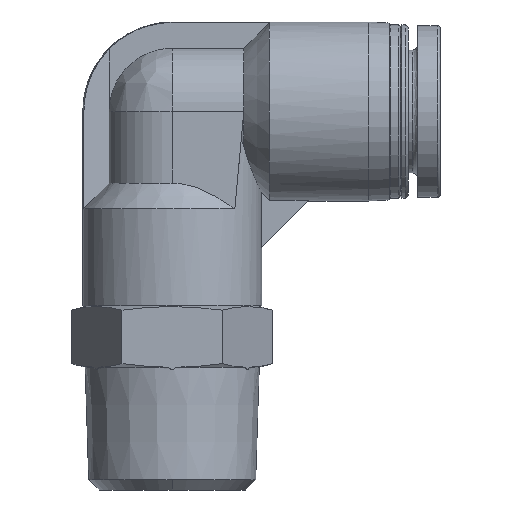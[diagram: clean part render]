
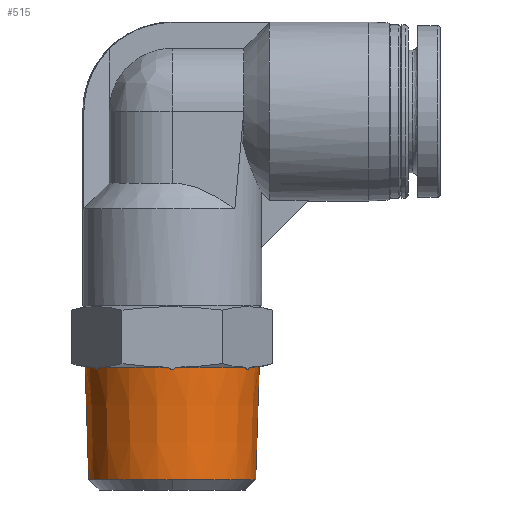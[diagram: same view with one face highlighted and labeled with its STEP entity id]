
A CAD part, front view. The second image highlights one B-rep face of the part: STEP entity #515.
In plain terms, the highlighted conical face has half-angle 1.79 degrees and reference radius 8.508 mm.
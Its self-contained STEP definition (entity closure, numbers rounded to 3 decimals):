
#16 = EDGE_CURVE ( 'NONE', #1618, #109, #2916, .T. ) ;
#32 = ORIENTED_EDGE ( 'NONE', *, *, #183, .T. ) ;
#60 = EDGE_CURVE ( 'NONE', #2812, #1618, #1098, .T. ) ;
#65 = CIRCLE ( 'NONE', #2620, 8.508 ) ;
#109 = VERTEX_POINT ( 'NONE', #2345 ) ;
#134 = EDGE_CURVE ( 'NONE', #407, #2812, #1837, .T. ) ;
#142 = EDGE_CURVE ( 'NONE', #1291, #441, #1373, .T. ) ;
#151 = EDGE_CURVE ( 'NONE', #2352, #441, #65, .T. ) ;
#175 = EDGE_CURVE ( 'NONE', #2352, #2492, #2382, .T. ) ;
#180 = EDGE_CURVE ( 'NONE', #1429, #2492, #1352, .T. ) ;
#183 = EDGE_CURVE ( 'NONE', #1429, #1846, #1490, .T. ) ;
#206 = EDGE_CURVE ( 'NONE', #560, #1846, #2214, .T. ) ;
#232 = EDGE_CURVE ( 'NONE', #1291, #109, #1662, .T. ) ;
#274 = CARTESIAN_POINT ( 'NONE',  ( 0.265, -8.5, 11.884 ) ) ;
#376 = DIRECTION ( 'NONE',  ( 1., 0., 0. ) ) ;
#407 = VERTEX_POINT ( 'NONE', #2166 ) ;
#410 = DIRECTION ( 'NONE',  ( 0., 0., 1. ) ) ;
#420 = CARTESIAN_POINT ( 'NONE',  ( 0., 0., 12. ) ) ;
#441 = VERTEX_POINT ( 'NONE', #1464 ) ;
#452 = CARTESIAN_POINT ( 'NONE',  ( -8.508, 0., 12. ) ) ;
#484 = DIRECTION ( 'NONE',  ( -0.031, 0., 1. ) ) ;
#515 = ADVANCED_FACE ( '71', ( #2912 ), #1386, .T. ) ;
#560 = VERTEX_POINT ( 'NONE', #2491 ) ;
#645 = ORIENTED_EDGE ( 'NONE', *, *, #16, .T. ) ;
#678 = ORIENTED_EDGE ( 'NONE', *, *, #206, .F. ) ;
#719 = ORIENTED_EDGE ( 'NONE', *, *, #134, .T. ) ;
#852 = ORIENTED_EDGE ( 'NONE', *, *, #60, .T. ) ;
#924 = ORIENTED_EDGE ( 'NONE', *, *, #982, .F. ) ;
#982 = EDGE_CURVE ( 'NONE', #407, #560, #2004, .T. ) ;
#1012 = DIRECTION ( 'NONE',  ( 0.884, -0.468, 0. ) ) ;
#1015 = DIRECTION ( 'NONE',  ( 0., 0., 1. ) ) ;
#1020 = CARTESIAN_POINT ( 'NONE',  ( 0., 0., 12. ) ) ;
#1098 = CIRCLE ( 'NONE', #1556, 8.164 ) ;
#1144 = EDGE_LOOP ( 'NONE', ( #924, #719, #852, #645, #1807, #1223, #1178, #2566, #2810, #32, #678 ) ) ;
#1178 = ORIENTED_EDGE ( 'NONE', *, *, #151, .F. ) ;
#1223 = ORIENTED_EDGE ( 'NONE', *, *, #142, .T. ) ;
#1238 = CARTESIAN_POINT ( 'NONE',  ( 7.541, -3.939, 12. ) ) ;
#1291 = VERTEX_POINT ( 'NONE', #1238 ) ;
#1352 = CIRCLE ( 'NONE', #1406, 8.508 ) ;
#1373 = B_SPLINE_CURVE_WITH_KNOTS ( 'NONE', 3,
 ( #2238, #2245, #2249, #2224, #2212, #2202, #2177, #2160, #2148, #2145 ),
 .UNSPECIFIED., .F., .F.,
 ( 4, 2, 2, 2, 4 ),
 ( 0., 0., 0., 0.001, 0.001 ),
 .UNSPECIFIED. ) ;
#1386 = CONICAL_SURFACE ( 'NONE', #2254, 8.508, 0.031 ) ;
#1406 = AXIS2_PLACEMENT_3D ( 'NONE', #1779, #1776, #1770 ) ;
#1408 = CARTESIAN_POINT ( 'NONE',  ( -7.182, -4.561, 12. ) ) ;
#1429 = VERTEX_POINT ( 'NONE', #1408 ) ;
#1464 = CARTESIAN_POINT ( 'NONE',  ( 7.182, -4.561, 12. ) ) ;
#1466 = DIRECTION ( 'NONE',  ( -0.884, 0.468, 0. ) ) ;
#1469 = DIRECTION ( 'NONE',  ( 0., 0., 1. ) ) ;
#1473 = CARTESIAN_POINT ( 'NONE',  ( 0., 0., 12. ) ) ;
#1490 = B_SPLINE_CURVE_WITH_KNOTS ( 'NONE', 3,
 ( #1766, #1786, #1788, #1762, #1759, #1754, #1750, #1743, #1737, #1732 ),
 .UNSPECIFIED., .F., .F.,
 ( 4, 2, 2, 2, 4 ),
 ( 0., 0., 0., 0.001, 0.001 ),
 .UNSPECIFIED. ) ;
#1556 = AXIS2_PLACEMENT_3D ( 'NONE', #2486, #2483, #2467 ) ;
#1582 = CARTESIAN_POINT ( 'NONE',  ( 8.164, 0., 1.014 ) ) ;
#1618 = VERTEX_POINT ( 'NONE', #1582 ) ;
#1662 = CIRCLE ( 'NONE', #1735, 8.508 ) ;
#1728 = CARTESIAN_POINT ( 'NONE',  ( 0.359, -8.5, 12. ) ) ;
#1732 = CARTESIAN_POINT ( 'NONE',  ( -7.541, -3.939, 12. ) ) ;
#1735 = AXIS2_PLACEMENT_3D ( 'NONE', #1020, #1015, #1012 ) ;
#1737 = CARTESIAN_POINT ( 'NONE',  ( -7.518, -3.978, 11.94 ) ) ;
#1743 = CARTESIAN_POINT ( 'NONE',  ( -7.493, -4.021, 11.883 ) ) ;
#1750 = CARTESIAN_POINT ( 'NONE',  ( -7.434, -4.124, 11.791 ) ) ;
#1754 = CARTESIAN_POINT ( 'NONE',  ( -7.398, -4.186, 11.758 ) ) ;
#1759 = CARTESIAN_POINT ( 'NONE',  ( -7.323, -4.316, 11.758 ) ) ;
#1762 = CARTESIAN_POINT ( 'NONE',  ( -7.287, -4.378, 11.793 ) ) ;
#1766 = CARTESIAN_POINT ( 'NONE',  ( -7.182, -4.561, 12. ) ) ;
#1770 = DIRECTION ( 'NONE',  ( -0.847, -0.531, 0. ) ) ;
#1776 = DIRECTION ( 'NONE',  ( 0., 0., 1. ) ) ;
#1779 = CARTESIAN_POINT ( 'NONE',  ( 0., 0., 12. ) ) ;
#1786 = CARTESIAN_POINT ( 'NONE',  ( -7.204, -4.522, 11.94 ) ) ;
#1788 = CARTESIAN_POINT ( 'NONE',  ( -7.228, -4.48, 11.884 ) ) ;
#1807 = ORIENTED_EDGE ( 'NONE', *, *, #232, .F. ) ;
#1837 = CIRCLE ( 'NONE', #2855, 8.164 ) ;
#1846 = VERTEX_POINT ( 'NONE', #2451 ) ;
#1860 = CARTESIAN_POINT ( 'NONE',  ( -0.359, -8.5, 12. ) ) ;
#1865 = CARTESIAN_POINT ( 'NONE',  ( -0.314, -8.5, 11.94 ) ) ;
#1873 = CARTESIAN_POINT ( 'NONE',  ( -0.264, -8.5, 11.883 ) ) ;
#1885 = CARTESIAN_POINT ( 'NONE',  ( -0.146, -8.5, 11.791 ) ) ;
#1898 = CARTESIAN_POINT ( 'NONE',  ( -0.074, -8.5, 11.758 ) ) ;
#1907 = CARTESIAN_POINT ( 'NONE',  ( 0.076, -8.5, 11.758 ) ) ;
#1916 = CARTESIAN_POINT ( 'NONE',  ( 0.148, -8.5, 11.793 ) ) ;
#1931 = CARTESIAN_POINT ( 'NONE',  ( 0.359, -8.5, 12. ) ) ;
#1940 = CARTESIAN_POINT ( 'NONE',  ( 0.314, -8.5, 11.94 ) ) ;
#1991 = VECTOR ( 'NONE', #484, 1000. ) ;
#1995 = VECTOR ( 'NONE', #2698, 1000. ) ;
#2004 = LINE ( 'NONE', #452, #1991 ) ;
#2070 = DIRECTION ( 'NONE',  ( 0.036, -0.999, 0. ) ) ;
#2075 = DIRECTION ( 'NONE',  ( 0., 0., 1. ) ) ;
#2077 = CARTESIAN_POINT ( 'NONE',  ( 0., 0., 12. ) ) ;
#2145 = CARTESIAN_POINT ( 'NONE',  ( 7.182, -4.561, 12. ) ) ;
#2148 = CARTESIAN_POINT ( 'NONE',  ( 7.204, -4.522, 11.94 ) ) ;
#2160 = CARTESIAN_POINT ( 'NONE',  ( 7.229, -4.479, 11.883 ) ) ;
#2166 = CARTESIAN_POINT ( 'NONE',  ( -8.164, 0., 1.014 ) ) ;
#2177 = CARTESIAN_POINT ( 'NONE',  ( 7.288, -4.376, 11.791 ) ) ;
#2202 = CARTESIAN_POINT ( 'NONE',  ( 7.324, -4.314, 11.758 ) ) ;
#2208 = AXIS2_PLACEMENT_3D ( 'NONE', #1473, #1469, #1466 ) ;
#2212 = CARTESIAN_POINT ( 'NONE',  ( 7.399, -4.184, 11.758 ) ) ;
#2214 = CIRCLE ( 'NONE', #2208, 8.508 ) ;
#2224 = CARTESIAN_POINT ( 'NONE',  ( 7.435, -4.122, 11.793 ) ) ;
#2238 = CARTESIAN_POINT ( 'NONE',  ( 7.541, -3.939, 12. ) ) ;
#2245 = CARTESIAN_POINT ( 'NONE',  ( 7.518, -3.978, 11.94 ) ) ;
#2249 = CARTESIAN_POINT ( 'NONE',  ( 7.494, -4.02, 11.884 ) ) ;
#2254 = AXIS2_PLACEMENT_3D ( 'NONE', #420, #410, #376 ) ;
#2264 = DIRECTION ( 'NONE',  ( 1., 0., 0. ) ) ;
#2271 = DIRECTION ( 'NONE',  ( 0., 0., 1. ) ) ;
#2278 = CARTESIAN_POINT ( 'NONE',  ( 0., 0., 1.014 ) ) ;
#2345 = CARTESIAN_POINT ( 'NONE',  ( 8.508, 0., 12. ) ) ;
#2352 = VERTEX_POINT ( 'NONE', #1728 ) ;
#2382 = B_SPLINE_CURVE_WITH_KNOTS ( 'NONE', 3,
 ( #1931, #1940, #274, #1916, #1907, #1898, #1885, #1873, #1865, #1860 ),
 .UNSPECIFIED., .F., .F.,
 ( 4, 2, 2, 2, 4 ),
 ( 0., 0., 0., 0.001, 0.001 ),
 .UNSPECIFIED. ) ;
#2401 = CARTESIAN_POINT ( 'NONE',  ( 0., -8.164, 1.014 ) ) ;
#2451 = CARTESIAN_POINT ( 'NONE',  ( -7.541, -3.939, 12. ) ) ;
#2467 = DIRECTION ( 'NONE',  ( 1., 0., 0. ) ) ;
#2483 = DIRECTION ( 'NONE',  ( 0., 0., 1. ) ) ;
#2486 = CARTESIAN_POINT ( 'NONE',  ( 0., 0., 1.014 ) ) ;
#2491 = CARTESIAN_POINT ( 'NONE',  ( -8.508, 0., 12. ) ) ;
#2492 = VERTEX_POINT ( 'NONE', #2623 ) ;
#2566 = ORIENTED_EDGE ( 'NONE', *, *, #175, .T. ) ;
#2620 = AXIS2_PLACEMENT_3D ( 'NONE', #2077, #2075, #2070 ) ;
#2623 = CARTESIAN_POINT ( 'NONE',  ( -0.359, -8.5, 12. ) ) ;
#2698 = DIRECTION ( 'NONE',  ( 0.031, 0., 1. ) ) ;
#2722 = CARTESIAN_POINT ( 'NONE',  ( 8.508, 0., 12. ) ) ;
#2810 = ORIENTED_EDGE ( 'NONE', *, *, #180, .F. ) ;
#2812 = VERTEX_POINT ( 'NONE', #2401 ) ;
#2855 = AXIS2_PLACEMENT_3D ( 'NONE', #2278, #2271, #2264 ) ;
#2912 = FACE_OUTER_BOUND ( 'NONE', #1144, .T. ) ;
#2916 = LINE ( 'NONE', #2722, #1995 ) ;
